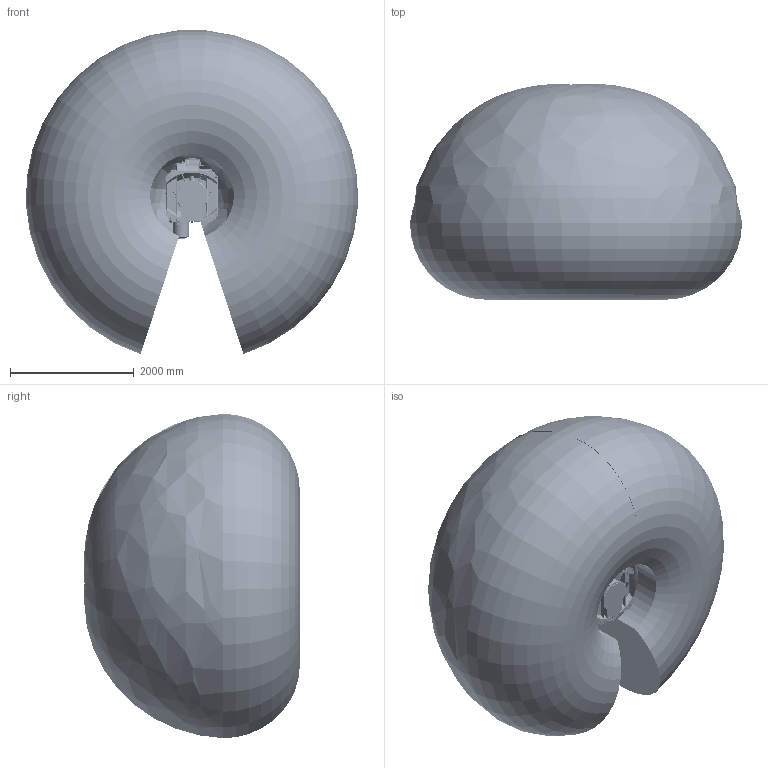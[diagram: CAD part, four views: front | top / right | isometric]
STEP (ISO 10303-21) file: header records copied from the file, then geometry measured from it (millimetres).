
FILE_DESCRIPTION((''),'2;1');
FILE_NAME('R210-1-CN_ASM','2024-07-02T12:00:08',('Administrator'),(''),'CREO PARAMETRIC BY PTC INC, 2018260','CREO PARAMETRIC BY PTC INC, 2018260','');
FILE_SCHEMA(('CONFIG_CONTROL_DESIGN','SHAPE_APPEARANCE_LAYERS_GROUPS'));
Length unit declared in the file: millimetre
Products named in the file (12): R210-1-CN_BASE; R210-1-CN_JOINT1; R210-1-CN_JOINT2; R210-1-CN_JOINT3; R210-1-CN_JOINT4; R210-1-CN_JOINT5; R210-1-CN_JOINT6; R210-1-CN_BALANCE-CYLINDER; R210-1-CN_SHAFT; R210-1-CN_RANGE; R210-1-CN_RANGE2; R210-1-CN_ASM
Assembly tree (11 placements, depth 2):
  R210-1-CN_ASM
    R210-1-CN_BASE
    R210-1-CN_JOINT1
    R210-1-CN_JOINT2
    R210-1-CN_JOINT3
    R210-1-CN_JOINT4
    R210-1-CN_JOINT5
    R210-1-CN_JOINT6
    R210-1-CN_BALANCE-CYLINDER
    R210-1-CN_SHAFT
    R210-1-CN_RANGE
    R210-1-CN_RANGE2
Bounding box: 5358.11 x 3476.92 x 5235.53 mm (x, y, z)
Volume: 47836760833 mm3; surface area: 115980973.2 mm2
Topology: 11 solids, 31 shells, 13622 faces, 34893 edges, 21395 vertices
Faces by surface type: cylinder 4980, plane 3603, torus 2220, bspline 1286, cone 1044, sphere 456, extrusion 33
Entity records: 668356 total; most frequent: CARTESIAN_POINT 308734, DIRECTION 68990, ORIENTED_EDGE 68668, EDGE_CURVE 34334, AXIS2_PLACEMENT_3D 27927, VERTEX_POINT 21394, CIRCLE 15600, EDGE_LOOP 14690
